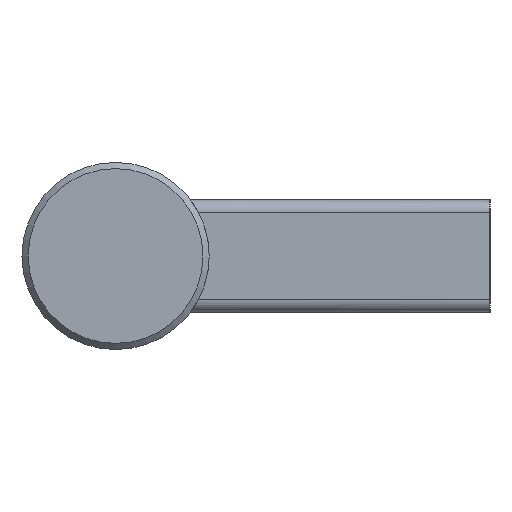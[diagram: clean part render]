
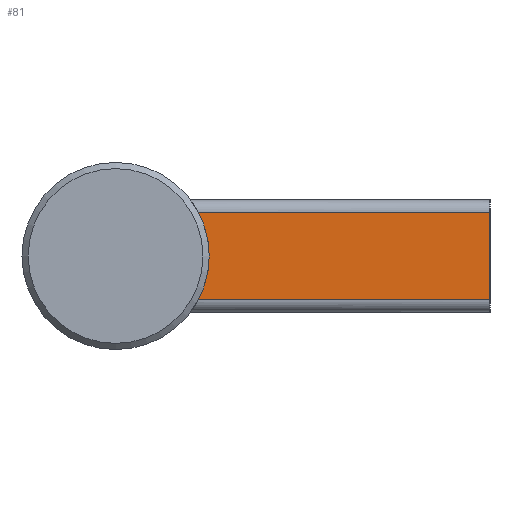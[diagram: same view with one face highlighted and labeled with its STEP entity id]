
A CAD part, left-side view. The second image highlights one B-rep face of the part: STEP entity #81.
In plain terms, the highlighted planar face has unit normal (-1, 0, 0).
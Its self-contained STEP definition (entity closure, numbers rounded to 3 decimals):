
#81 = ADVANCED_FACE( '', ( #121 ), #122, .F. );
#121 = FACE_OUTER_BOUND( '', #186, .T. );
#122 = PLANE( '', #187 );
#186 = EDGE_LOOP( '', ( #280, #281, #282, #283 ) );
#187 = AXIS2_PLACEMENT_3D( '', #284, #285, #286 );
#280 = ORIENTED_EDGE( '', *, *, #453, .F. );
#281 = ORIENTED_EDGE( '', *, *, #444, .T. );
#282 = ORIENTED_EDGE( '', *, *, #455, .T. );
#283 = ORIENTED_EDGE( '', *, *, #456, .T. );
#284 = CARTESIAN_POINT( '', ( -315., 60., -7. ) );
#285 = DIRECTION( '', ( 1., 0., 0. ) );
#286 = DIRECTION( '', ( 0., 0., -1. ) );
#444 = EDGE_CURVE( '', #517, #514, #518, .T. );
#453 = EDGE_CURVE( '', #517, #534, #535, .T. );
#455 = EDGE_CURVE( '', #514, #537, #538, .T. );
#456 = EDGE_CURVE( '', #537, #534, #539, .T. );
#514 = VERTEX_POINT( '', #668 );
#517 = VERTEX_POINT( '', #686 );
#518 = CIRCLE( '', #687, 15. );
#534 = VERTEX_POINT( '', #747 );
#535 = LINE( '', #748, #749 );
#537 = VERTEX_POINT( '', #751 );
#538 = LINE( '', #752, #753 );
#539 = LINE( '', #754, #755 );
#668 = CARTESIAN_POINT( '', ( -315., 46.734, -7. ) );
#686 = CARTESIAN_POINT( '', ( -315., 46.734, 7. ) );
#687 = AXIS2_PLACEMENT_3D( '', #844, #845, #846 );
#747 = CARTESIAN_POINT( '', ( -315., 0., 7. ) );
#748 = CARTESIAN_POINT( '', ( -315., 60., 7. ) );
#749 = VECTOR( '', #856, 1000. );
#751 = CARTESIAN_POINT( '', ( -315., 0., -7. ) );
#752 = CARTESIAN_POINT( '', ( -315., 60., -7. ) );
#753 = VECTOR( '', #860, 1000. );
#754 = CARTESIAN_POINT( '', ( -315., 0., -7. ) );
#755 = VECTOR( '', #861, 1000. );
#844 = CARTESIAN_POINT( '', ( -315., 60., 0. ) );
#845 = DIRECTION( '', ( 1., 0., 0. ) );
#846 = DIRECTION( '', ( 0., 0., -1. ) );
#856 = DIRECTION( '', ( 0., -1., 0. ) );
#860 = DIRECTION( '', ( 0., -1., 0. ) );
#861 = DIRECTION( '', ( 0., 0., 1. ) );
